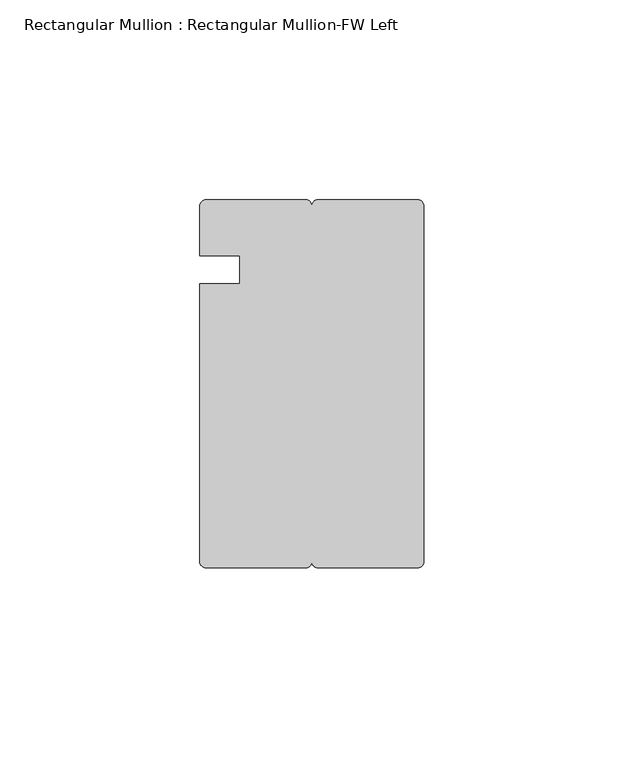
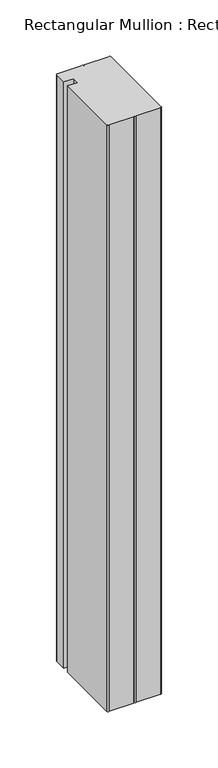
"""IFC4 building model written with IfcOpenShell, lengths in millimetres: member geometry, Rectangular Mullion : Rectangular Mullion-FW Left."""

from ifc_helpers import new_model, si_unit, frame, origin, place, context, project, spatial, circle_curve, source, transform, mapped, element, save
from ifc_brep_helpers import plane_surface, cylinder_surface, advanced_brep


def rectangular_mullion_rectangular_mullion_fw_left_d1c3b4dc(model_context):
    return source(origin(), model_context, "Body", "AdvancedBrep", [
        advanced_brep(
        [(-54.5201031, 0.0, 0.0), (-56.0, -1.4798969, 0.0), (-56.0, -14.0, 0.0), (-46.0, -14.0, 0.0), (-46.0, -21.0, 0.0), (-56.0, -21.0, 0.0), (-56.0, -90.5201031, 0.0), (-54.5201031, -92.0, 0.0), (-29.4798969, -92.0, 0.0), (-28.0, -90.5201031, 0.0), (-26.5201031, -92.0, 0.0), (-1.4798969, -92.0, 0.0), (0.0, -90.5201031, 0.0), (0.0, -1.4798969, 0.0), (-1.4798969, 0.0, 0.0), (-26.5201031, 0.0, 0.0), (-28.0, -1.4798969, 0.0), (-29.4798969, 0.0, 0.0), (-54.5201031, 0.0, -638.0), (-29.4798969, 0.0, -638.0), (-28.0, -1.4798969, -638.0), (-26.5201031, 0.0, -638.0), (-1.4798969, 0.0, -638.0), (0.0, -1.4798969, -638.0), (0.0, -90.5201031, -638.0), (-1.4798969, -92.0, -638.0), (-26.5201031, -92.0, -638.0), (-28.0, -90.5201031, -638.0), (-29.4798969, -92.0, -638.0), (-54.5201031, -92.0, -638.0), (-56.0, -90.5201031, -638.0), (-56.0, -21.0, -638.0), (-46.0, -21.0, -638.0), (-46.0, -14.0, -638.0), (-56.0, -14.0, -638.0), (-56.0, -1.4798969, -638.0)],
        [
            (0, 1, circle_curve(frame((-54.5201031, -1.4798969, 0.0), z_axis=(0.0, 0.0, 1.0), x_axis=(-1.0, 0.0, 0.0)), 1.4798969)),
            (1, 2),
            (2, 3),
            (3, 4),
            (4, 5),
            (5, 6),
            (6, 7, circle_curve(frame((-54.5201031, -90.5201031, 0.0), z_axis=(0.0, 0.0, 1.0), x_axis=(-1.0, 0.0, 0.0)), 1.4798969)),
            (7, 8),
            (8, 9, circle_curve(frame((-29.4798969, -90.5201031, 0.0), z_axis=(0.0, 0.0, 1.0), x_axis=(-1.0, 0.0, 0.0)), 1.4798969)),
            (9, 10, circle_curve(frame((-26.5201031, -90.5201031, 0.0), z_axis=(0.0, 0.0, 1.0), x_axis=(-1.0, 0.0, 0.0)), 1.4798969)),
            (10, 11),
            (11, 12, circle_curve(frame((-1.4798969, -90.5201031, 0.0), z_axis=(0.0, 0.0, 1.0), x_axis=(-1.0, 0.0, 0.0)), 1.4798969)),
            (12, 13),
            (13, 14, circle_curve(frame((-1.4798969, -1.4798969, 0.0), z_axis=(0.0, 0.0, 1.0), x_axis=(-1.0, 0.0, 0.0)), 1.4798969)),
            (14, 15),
            (15, 16, circle_curve(frame((-26.5201031, -1.4798969, 0.0), z_axis=(0.0, 0.0, 1.0), x_axis=(-1.0, 0.0, 0.0)), 1.4798969)),
            (16, 17, circle_curve(frame((-29.4798969, -1.4798969, 0.0), z_axis=(0.0, 0.0, 1.0), x_axis=(-1.0, 0.0, 0.0)), 1.4798969)),
            (17, 0),
            (18, 19),
            (19, 20, circle_curve(frame((-29.4798969, -1.4798969, -638.0), z_axis=(0.0, 0.0, -1.0), x_axis=(-1.0, 0.0, 0.0)), 1.4798969)),
            (20, 21, circle_curve(frame((-26.5201031, -1.4798969, -638.0), z_axis=(0.0, 0.0, -1.0), x_axis=(-1.0, 0.0, 0.0)), 1.4798969)),
            (21, 22),
            (22, 23, circle_curve(frame((-1.4798969, -1.4798969, -638.0), z_axis=(0.0, 0.0, -1.0), x_axis=(-1.0, 0.0, 0.0)), 1.4798969)),
            (23, 24),
            (24, 25, circle_curve(frame((-1.4798969, -90.5201031, -638.0), z_axis=(0.0, 0.0, -1.0), x_axis=(-1.0, 0.0, 0.0)), 1.4798969)),
            (25, 26),
            (26, 27, circle_curve(frame((-26.5201031, -90.5201031, -638.0), z_axis=(0.0, 0.0, -1.0), x_axis=(-1.0, 0.0, 0.0)), 1.4798969)),
            (27, 28, circle_curve(frame((-29.4798969, -90.5201031, -638.0), z_axis=(0.0, 0.0, -1.0), x_axis=(-1.0, 0.0, 0.0)), 1.4798969)),
            (28, 29),
            (29, 30, circle_curve(frame((-54.5201031, -90.5201031, -638.0), z_axis=(0.0, 0.0, -1.0), x_axis=(-1.0, 0.0, 0.0)), 1.4798969)),
            (30, 31),
            (31, 32),
            (32, 33),
            (33, 34),
            (34, 35),
            (35, 18, circle_curve(frame((-54.5201031, -1.4798969, -638.0), z_axis=(0.0, 0.0, -1.0), x_axis=(-1.0, 0.0, 0.0)), 1.4798969)),
            (0, 18),
            (35, 1),
            (34, 2),
            (33, 3),
            (32, 4),
            (31, 5),
            (30, 6),
            (29, 7),
            (28, 8),
            (27, 9),
            (26, 10),
            (25, 11),
            (24, 12),
            (23, 13),
            (22, 14),
            (21, 15),
            (20, 16),
            (19, 17),
        ],
        [
            plane_surface(frame((0.0, -107.1077683, 0.0), z_axis=(0.0, 0.0, 1.0), x_axis=(-1.0, 0.0, 0.0))),
            plane_surface(frame((0.0, -107.1077683, -638.0), z_axis=(0.0, 0.0, -1.0), x_axis=(-1.0, 0.0, 0.0))),
            cylinder_surface(frame((-54.5201031, -1.4798969, 0.0), z_axis=(0.0, 0.0, 1.0), x_axis=(-1.0, 0.0, 0.0)), 1.4798969),
            plane_surface(frame((-56.0, -1.4798969, 0.0), z_axis=(-1.0, 0.0, 0.0), x_axis=(0.0, 0.0, -1.0))),
            plane_surface(frame((-56.0, -14.0, 0.0), z_axis=(0.0, -1.0, 0.0), x_axis=(0.0, 0.0, -1.0))),
            plane_surface(frame((-46.0, -14.0, 0.0), z_axis=(-1.0, 0.0, 0.0), x_axis=(0.0, 0.0, -1.0))),
            plane_surface(frame((-46.0, -21.0, 0.0), z_axis=(0.0, 1.0, 0.0), x_axis=(0.0, 0.0, -1.0))),
            plane_surface(frame((-56.0, -21.0, 0.0), z_axis=(-1.0, 0.0, 0.0), x_axis=(0.0, 0.0, -1.0))),
            cylinder_surface(frame((-54.5201031, -90.5201031, 0.0), z_axis=(0.0, 0.0, 1.0), x_axis=(-1.0, 0.0, 0.0)), 1.4798969),
            plane_surface(frame((-54.5201031, -92.0, 0.0), z_axis=(0.0, -1.0, 0.0), x_axis=(0.0, 0.0, -1.0))),
            cylinder_surface(frame((-29.4798969, -90.5201031, 0.0), z_axis=(0.0, 0.0, 1.0), x_axis=(-1.0, 0.0, 0.0)), 1.4798969),
            cylinder_surface(frame((-26.5201031, -90.5201031, 0.0), z_axis=(0.0, 0.0, 1.0), x_axis=(-1.0, 0.0, 0.0)), 1.4798969),
            plane_surface(frame((-26.5201031, -92.0, 0.0), z_axis=(0.0, -1.0, 0.0), x_axis=(0.0, 0.0, -1.0))),
            cylinder_surface(frame((-1.4798969, -90.5201031, 0.0), z_axis=(0.0, 0.0, 1.0), x_axis=(-1.0, 0.0, 0.0)), 1.4798969),
            plane_surface(frame((0.0, -90.5201031, 0.0), z_axis=(1.0, 0.0, 0.0), x_axis=(0.0, 0.0, -1.0))),
            cylinder_surface(frame((-1.4798969, -1.4798969, 0.0), z_axis=(0.0, 0.0, 1.0), x_axis=(-1.0, 0.0, 0.0)), 1.4798969),
            plane_surface(frame((-1.4798969, 0.0, 0.0), z_axis=(0.0, 1.0, 0.0), x_axis=(0.0, 0.0, -1.0))),
            cylinder_surface(frame((-26.5201031, -1.4798969, 0.0), z_axis=(0.0, 0.0, 1.0), x_axis=(-1.0, 0.0, 0.0)), 1.4798969),
            cylinder_surface(frame((-29.4798969, -1.4798969, 0.0), z_axis=(0.0, 0.0, 1.0), x_axis=(-1.0, 0.0, 0.0)), 1.4798969),
            plane_surface(frame((-29.4798969, 0.0, 0.0), z_axis=(0.0, 1.0, 0.0), x_axis=(0.0, 0.0, -1.0))),
        ],
        [
            (0, [[1, 2, 3, 4, 5, 6, 7, 8, 9, 10, 11, 12, 13, 14, 15, 16, 17, 18]]),
            (1, [[19, 20, 21, 22, 23, 24, 25, 26, 27, 28, 29, 30, 31, 32, 33, 34, 35, 36]]),
            (2, [[-1, 37, -36, 38]]),
            (3, [[-2, -38, -35, 39]]),
            (4, [[-3, -39, -34, 40]]),
            (5, [[-4, -40, -33, 41]]),
            (6, [[-5, -41, -32, 42]]),
            (7, [[-6, -42, -31, 43]]),
            (8, [[-7, -43, -30, 44]]),
            (9, [[-8, -44, -29, 45]]),
            (10, [[-9, -45, -28, 46]]),
            (11, [[-10, -46, -27, 47]]),
            (12, [[-11, -47, -26, 48]]),
            (13, [[-12, -48, -25, 49]]),
            (14, [[-13, -49, -24, 50]]),
            (15, [[-14, -50, -23, 51]]),
            (16, [[-15, -51, -22, 52]]),
            (17, [[-16, -52, -21, 53]]),
            (18, [[-17, -53, -20, 54]]),
            (19, [[-18, -54, -19, -37]]),
        ],
    ),
    ])


if __name__ == "__main__":
    model = new_model("IFC4")
    model_context = context("Model", 3, world=origin())
    ifc_project = project(units=[si_unit("LENGTHUNIT", "METRE", prefix="MILLI")], contexts=[model_context])
    site = spatial("IfcSite", under=ifc_project)
    building = spatial("IfcBuilding", under=site)
    placement = place(None, origin())
    rectangular_mullion_rectangular_mullion_fw_left_shape = rectangular_mullion_rectangular_mullion_fw_left_d1c3b4dc(model_context)
    element("IfcMember", 1, ObjectType="Rectangular Mullion : Rectangular Mullion-FW Left", at=placement, inside=building, context=model_context, shape_type="MappedRepresentation", body=[
        mapped(rectangular_mullion_rectangular_mullion_fw_left_shape, transform((0.0, 0.0, 0.0), x_axis=(1.0, 0.0, 0.0), y_axis=(0.0, 1.0, 0.0), z_axis=(0.0, 0.0, 1.0))),
    ])
    save(model, "model.ifc")
